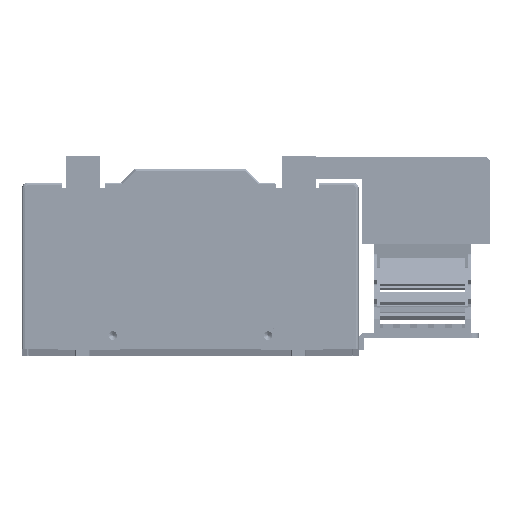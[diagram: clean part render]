
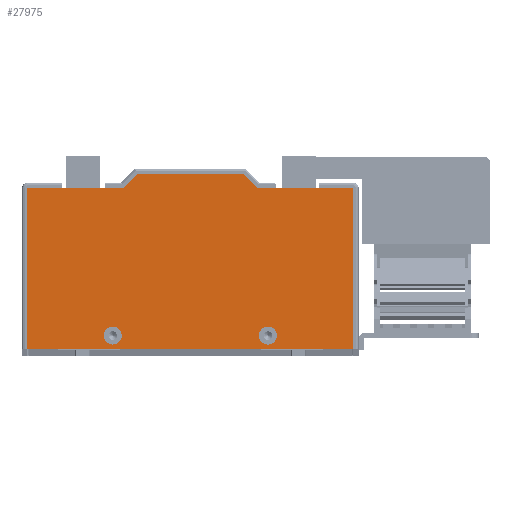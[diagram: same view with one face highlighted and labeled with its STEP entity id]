
A CAD part, top view. The second image highlights one B-rep face of the part: STEP entity #27975.
In plain terms, the highlighted planar face has unit normal (0, 0, 1) as drawn and (0, 0, -1) by its records, which use the part's own axes.
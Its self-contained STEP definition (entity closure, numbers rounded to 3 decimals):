
#15925 = DIRECTION ( 'NONE',  ( 1., 0., 0. ) ) ;
#15926 = VECTOR ( 'NONE', #15925, 1000. ) ;
#15927 = CARTESIAN_POINT ( 'NONE',  ( -175.191, 84.299, 0. ) ) ;
#15928 = LINE ( 'NONE', #15927, #15926 ) ;
#15934 = CARTESIAN_POINT ( 'NONE',  ( 14.809, 84.299, 0. ) ) ;
#15936 = CARTESIAN_POINT ( 'NONE',  ( -49.191, -17.701, 0. ) ) ;
#15944 = DIRECTION ( 'NONE',  ( -1., 0., 0. ) ) ;
#15945 = VECTOR ( 'NONE', #15944, 1000. ) ;
#15946 = CARTESIAN_POINT ( 'NONE',  ( 14.809, -17.701, 0. ) ) ;
#15947 = LINE ( 'NONE', #15946, #15945 ) ;
#15999 = CARTESIAN_POINT ( 'NONE',  ( -120.191, 76.299, 0. ) ) ;
#16024 = CARTESIAN_POINT ( 'NONE',  ( -175.191, 84.299, 0. ) ) ;
#16025 = CARTESIAN_POINT ( 'NONE',  ( -111.191, -17.701, 0. ) ) ;
#16317 = DIRECTION ( 'NONE',  ( 0., 1., 0. ) ) ;
#16318 = VECTOR ( 'NONE', #16317, 1000. ) ;
#16319 = CARTESIAN_POINT ( 'NONE',  ( -175.191, -17.701, 0. ) ) ;
#16320 = LINE ( 'NONE', #16319, #16318 ) ;
#16329 = CARTESIAN_POINT ( 'NONE',  ( -175.191, -9.701, 0. ) ) ;
#16808 = DIRECTION ( 'NONE',  ( 1., 0., 0. ) ) ;
#16809 = VECTOR ( 'NONE', #16808, 1000. ) ;
#16810 = CARTESIAN_POINT ( 'NONE',  ( -119.191, -9.701, 0. ) ) ;
#16811 = LINE ( 'NONE', #16810, #16809 ) ;
#16817 = DIRECTION ( 'NONE',  ( 0.707, -0.707, 0. ) ) ;
#16818 = VECTOR ( 'NONE', #16817, 1000. ) ;
#16819 = CARTESIAN_POINT ( 'NONE',  ( -111.191, -17.701, 0. ) ) ;
#16820 = LINE ( 'NONE', #16819, #16818 ) ;
#16837 = DIRECTION ( 'NONE',  ( -1., 0., 0. ) ) ;
#16838 = DIRECTION ( 'NONE',  ( 0., 0., -1. ) ) ;
#16839 = CARTESIAN_POINT ( 'NONE',  ( -125.441, 76.299, 0. ) ) ;
#16840 = AXIS2_PLACEMENT_3D ( 'NONE', #16839, #16838, #16837 ) ;
#16841 = CIRCLE ( 'NONE', #16840, 5.25 ) ;
#16845 = DIRECTION ( 'NONE',  ( -1., 0., 0. ) ) ;
#16846 = DIRECTION ( 'NONE',  ( 0., 0., -1. ) ) ;
#16847 = CARTESIAN_POINT ( 'NONE',  ( -34.941, 76.299, 0. ) ) ;
#16849 = AXIS2_PLACEMENT_3D ( 'NONE', #16847, #16846, #16845 ) ;
#16850 = CIRCLE ( 'NONE', #16849, 5.25 ) ;
#16915 = CARTESIAN_POINT ( 'NONE',  ( -41.191, -9.701, 0. ) ) ;
#16916 = DIRECTION ( 'NONE',  ( 1., 0., 0. ) ) ;
#16917 = VECTOR ( 'NONE', #16916, 1000. ) ;
#16918 = CARTESIAN_POINT ( 'NONE',  ( 14.809, -9.701, 0. ) ) ;
#16919 = LINE ( 'NONE', #16918, #16917 ) ;
#16940 = DIRECTION ( 'NONE',  ( 0., 0., 1. ) ) ;
#16941 = CARTESIAN_POINT ( 'NONE',  ( -175.191, 84.299, 0. ) ) ;
#16942 = AXIS2_PLACEMENT_3D ( 'NONE', #16941, #16940, #17011 ) ;
#16943 = PLANE ( 'NONE',  #16942 ) ;
#16944 = FACE_OUTER_BOUND ( 'NONE', #27984, .T. ) ;
#16945 = FACE_BOUND ( 'NONE', #27911, .T. ) ;
#16946 = FACE_BOUND ( 'NONE', #27976, .T. ) ;
#16956 = CARTESIAN_POINT ( 'NONE',  ( -119.191, -9.701, 0. ) ) ;
#17007 = DIRECTION ( 'NONE',  ( 0.707, 0.707, 0. ) ) ;
#17008 = VECTOR ( 'NONE', #17007, 1000. ) ;
#17009 = CARTESIAN_POINT ( 'NONE',  ( -41.191, -9.701, 0. ) ) ;
#17010 = LINE ( 'NONE', #17009, #17008 ) ;
#17011 = DIRECTION ( 'NONE',  ( 1., 0., 0. ) ) ;
#18156 = CARTESIAN_POINT ( 'NONE',  ( 14.809, -9.701, 0. ) ) ;
#18256 = DIRECTION ( 'NONE',  ( 0., -1., 0. ) ) ;
#18257 = VECTOR ( 'NONE', #18256, 1000. ) ;
#18258 = CARTESIAN_POINT ( 'NONE',  ( 14.809, 84.299, 0. ) ) ;
#18259 = LINE ( 'NONE', #18258, #18257 ) ;
#27411 = EDGE_CURVE ( 'NONE', #27417, #27451, #15947, .T. ) ;
#27417 = VERTEX_POINT ( 'NONE', #15936 ) ;
#27419 = VERTEX_POINT ( 'NONE', #15934 ) ;
#27426 = EDGE_CURVE ( 'NONE', #27452, #27419, #15928, .T. ) ;
#27429 = VERTEX_POINT ( 'NONE', #15999 ) ;
#27451 = VERTEX_POINT ( 'NONE', #16025 ) ;
#27452 = VERTEX_POINT ( 'NONE', #16024 ) ;
#27598 = VERTEX_POINT ( 'NONE', #16329 ) ;
#27603 = EDGE_CURVE ( 'NONE', #27598, #27452, #16320, .T. ) ;
#27886 = ORIENTED_EDGE ( 'NONE', *, *, #27426, .T. ) ;
#27887 = ORIENTED_EDGE ( 'NONE', *, *, #27888, .F. ) ;
#27888 = EDGE_CURVE ( 'NONE', #27965, #27451, #16820, .T. ) ;
#27895 = EDGE_CURVE ( 'NONE', #27598, #27965, #16811, .T. ) ;
#27911 = EDGE_LOOP ( 'NONE', ( #27912, #27916 ) ) ;
#27912 = ORIENTED_EDGE ( 'NONE', *, *, #27913, .F. ) ;
#27913 = EDGE_CURVE ( 'NONE', #71240, #71138, #16850, .T. ) ;
#27916 = ORIENTED_EDGE ( 'NONE', *, *, #71268, .F. ) ;
#27919 = EDGE_CURVE ( 'NONE', #71145, #27429, #16841, .T. ) ;
#27920 = ORIENTED_EDGE ( 'NONE', *, *, #71143, .F. ) ;
#27944 = ORIENTED_EDGE ( 'NONE', *, *, #28673, .T. ) ;
#27945 = ORIENTED_EDGE ( 'NONE', *, *, #27948, .F. ) ;
#27948 = EDGE_CURVE ( 'NONE', #27949, #28601, #16919, .T. ) ;
#27949 = VERTEX_POINT ( 'NONE', #16915 ) ;
#27962 = ORIENTED_EDGE ( 'NONE', *, *, #27603, .T. ) ;
#27965 = VERTEX_POINT ( 'NONE', #16956 ) ;
#27966 = ORIENTED_EDGE ( 'NONE', *, *, #27895, .F. ) ;
#27975 = ADVANCED_FACE ( 'NONE', ( #16946, #16945, #16944 ), #16943, .F. ) ;
#27976 = EDGE_LOOP ( 'NONE', ( #27977, #27920 ) ) ;
#27977 = ORIENTED_EDGE ( 'NONE', *, *, #27919, .F. ) ;
#27981 = ORIENTED_EDGE ( 'NONE', *, *, #27983, .F. ) ;
#27983 = EDGE_CURVE ( 'NONE', #27417, #27949, #17010, .T. ) ;
#27984 = EDGE_LOOP ( 'NONE', ( #27944, #27945, #27981, #27985, #27887, #27966, #27962, #27886 ) ) ;
#27985 = ORIENTED_EDGE ( 'NONE', *, *, #27411, .T. ) ;
#28601 = VERTEX_POINT ( 'NONE', #18156 ) ;
#28673 = EDGE_CURVE ( 'NONE', #27419, #28601, #18259, .T. ) ;
#61688 = CARTESIAN_POINT ( 'NONE',  ( -130.691, 76.299, 0. ) ) ;
#61692 = DIRECTION ( 'NONE',  ( -1., 0., 0. ) ) ;
#61693 = DIRECTION ( 'NONE',  ( 0., 0., -1. ) ) ;
#61695 = CARTESIAN_POINT ( 'NONE',  ( -125.441, 76.299, 0. ) ) ;
#61697 = AXIS2_PLACEMENT_3D ( 'NONE', #61695, #61693, #61692 ) ;
#61699 = CIRCLE ( 'NONE', #61697, 5.25 ) ;
#61705 = CARTESIAN_POINT ( 'NONE',  ( -29.691, 76.299, 0. ) ) ;
#61758 = DIRECTION ( 'NONE',  ( -1., 0., 0. ) ) ;
#61760 = DIRECTION ( 'NONE',  ( 0., 0., -1. ) ) ;
#61761 = CARTESIAN_POINT ( 'NONE',  ( -34.941, 76.299, 0. ) ) ;
#61762 = AXIS2_PLACEMENT_3D ( 'NONE', #61761, #61760, #61758 ) ;
#61764 = CIRCLE ( 'NONE', #61762, 5.25 ) ;
#61779 = CARTESIAN_POINT ( 'NONE',  ( -40.191, 76.299, 0. ) ) ;
#71138 = VERTEX_POINT ( 'NONE', #61705 ) ;
#71143 = EDGE_CURVE ( 'NONE', #27429, #71145, #61699, .T. ) ;
#71145 = VERTEX_POINT ( 'NONE', #61688 ) ;
#71240 = VERTEX_POINT ( 'NONE', #61779 ) ;
#71268 = EDGE_CURVE ( 'NONE', #71138, #71240, #61764, .T. ) ;
